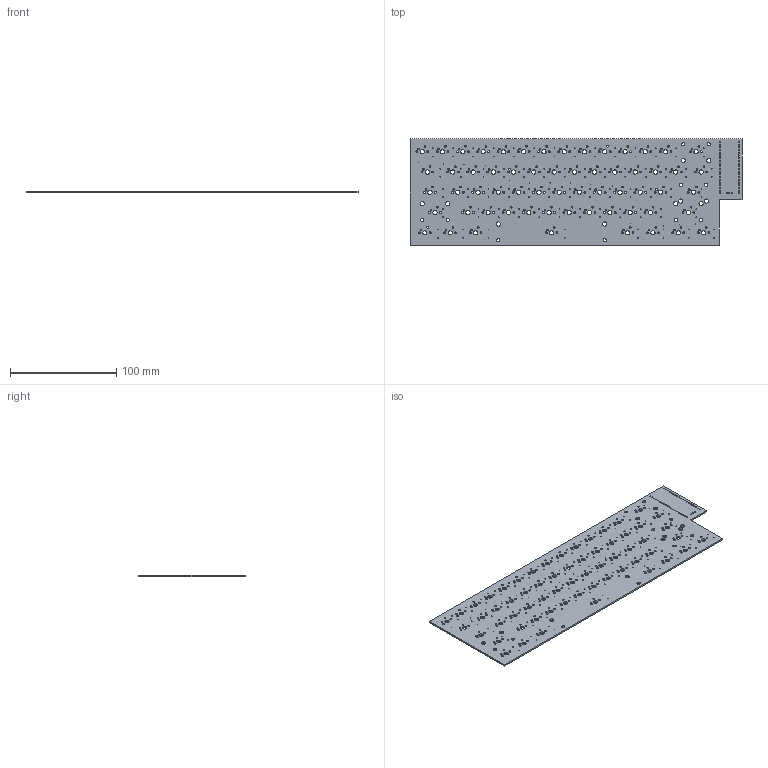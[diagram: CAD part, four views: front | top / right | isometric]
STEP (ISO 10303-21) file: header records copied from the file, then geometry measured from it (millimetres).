
FILE_DESCRIPTION(/* description */ ('STEP AP242','CAx-IF Rec.Pracs.---Representation and Presentation of Product Manufacturing Information (PMI)---4.0---2014-10-13','CAx-IF Rec.Pracs.---3D Tessellated Geometry---0.4---2014-09-14','2;1'),/* implementation_level */ '2;1');
FILE_NAME(/* name */ 'Assembly 1 - Keyboard_PCB',/* time_stamp */ '2025-06-15T22:21:07Z',/* author */ (''),/* organization */ (''),/* preprocessor_version */ 'ST-DEVELOPER v20',/* originating_system */ 'ONSHAPE BY PTC INC, 1.199',/* authorisation */ ' ');
FILE_SCHEMA (('AP242_MANAGED_MODEL_BASED_3D_ENGINEERING_MIM_LF { 1 0 10303 442 1 1 4 }'));
Length unit declared in the file: metre
Products named in the file (1): Keyboard_PCB
Bounding box: 311.94 x 100.01 x 1.51 mm (x, y, z)
Volume: 43346.8 mm3; surface area: 62730.6 mm2
Topology: 1 solids, 1 shells, 512 faces, 1530 edges, 1020 vertices
Faces by surface type: cylinder 504, plane 8
Full cylindrical faces by diameter (mm): 0.3 x14, 0.8 x122, 1.02 x43, 1.524 x122, 1.75 x122, 3.048 x10, 3.988 x71
Entity records: 17380 total; most frequent: DIRECTION 3060, CARTESIAN_POINT 2559, ORIENTED_EDGE 2052, EDGE_LOOP 2024, FACE_BOUND 2024, AXIS2_PLACEMENT_3D 1521, EDGE_CURVE 1026, VERTEX_POINT 1020
